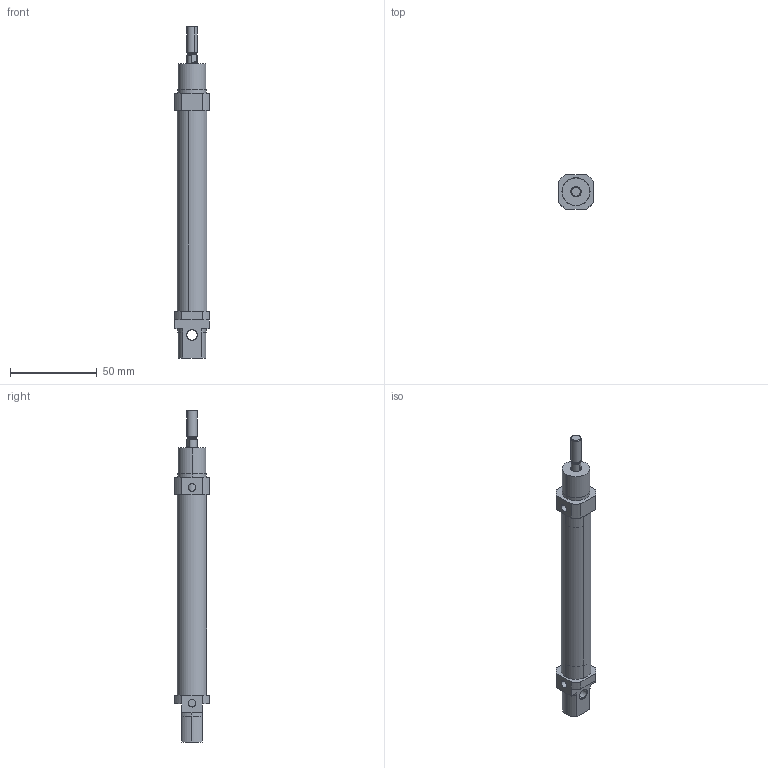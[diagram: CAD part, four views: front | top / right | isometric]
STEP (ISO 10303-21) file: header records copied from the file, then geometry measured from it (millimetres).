
FILE_DESCRIPTION (( 'STEP AP203' ), '1' );
FILE_NAME ('MA-CR-S-16x80CYLINDER.STEP', '2016-11-23T12:42:29', ( 'user' ), ( '' ), 'SwSTEP 2.0', 'SolidWorks 2013', '' );
FILE_SCHEMA (( 'CONFIG_CONTROL_DESIGN' ));
Length unit declared in the file: millimetre
Products named in the file (5): MA-CR-S  16 ARKA KAPAK ; MA-CR-S  16 烰 KAPAK ; MA-CR-S  16x80 BORU; MA-CR-S  16x80 M尳; MA-CR-S-16x80CYLINDER
Assembly tree (4 placements, depth 2):
  MA-CR-S-16x80CYLINDER
    MA-CR-S  16 ARKA KAPAK 
    MA-CR-S  16 烰 KAPAK 
    MA-CR-S  16x80 BORU
    MA-CR-S  16x80 M尳
Bounding box: 19.9 x 19.9 x 191.8 mm (x, y, z)
Volume: 26508.2 mm3; surface area: 22594.7 mm2
Topology: 4 solids, 4 shells, 89 faces, 211 edges, 136 vertices
Faces by surface type: cylinder 46, plane 33, cone 10
Entity records: 3230 total; most frequent: CARTESIAN_POINT 584, DIRECTION 477, ORIENTED_EDGE 422, EDGE_CURVE 211, AXIS2_PLACEMENT_3D 187, VERTEX_POINT 136, LINE 103, VECTOR 103
